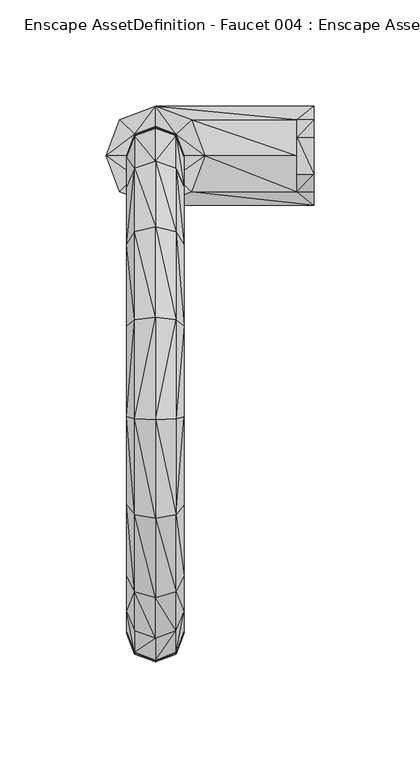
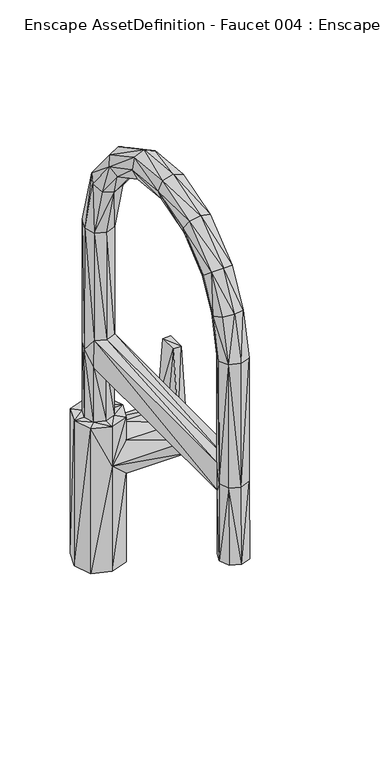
"""IFC4 building model written with IfcOpenShell, lengths in millimetres: geographic element geometry, Enscape AssetDefinition - Faucet 004 : Enscape AssetDefinition - Faucet 004."""

from ifc_helpers import new_model, si_unit, origin, place, context, project, spatial, faceted_brep, source, transform, mapped, element, save


def enscape_assetdefinition_faucet_004_enscape_assetdefinition_45639300(model_context):
    return source(origin(), model_context, "Body", "Brep", [
        faceted_brep([(0.0, -21.2619994, 147.0839977), (-16.9859994, -14.893, 147.0839977), (0.0, -21.2619994, 107.2349995), (-16.9859994, -14.893, 0.0), (-23.3549997, 2.0930001, 0.0), (-23.3549997, 2.0930001, 147.0839977), (-9.8759998, -7.5759999, 147.0839977), (0.0, -21.2619994, 0.0), (-16.9859994, 19.0789998, 0.0), (0.0, 25.4480001, 0.0), (23.3549997, 2.0930001, 0.0), (16.9859994, -14.893, 90.2500004), (16.9859994, -14.893, 0.0), (23.3549997, 2.0930001, 83.8799998), (16.9859994, 19.0789998, 0.0), (74.9029964, -14.893, 90.2500004), (74.9029964, 2.0930001, 83.8799998), (16.9859994, 19.0789998, 90.2500004), (74.9029964, 19.0789998, 90.2500004), (0.0, 25.4480001, 107.2349995), (74.9029964, 25.4480001, 107.2349995), (74.9029964, -14.893, 124.2209971), (74.9029964, 19.0789998, 124.2209971), (74.9029964, -21.2619994, 107.2349995), (74.9029964, -6.575, 194.0310001), (66.9059977, -14.893, 124.2209971), (74.9029964, 10.7610002, 194.0310001), (66.9059977, 10.7610002, 194.0310001), (66.9059977, 19.0789998, 124.2209971), (16.9859994, 19.0789998, 124.2209971), (66.9059977, 2.0930001, 130.5910051), (66.9059977, -6.575, 194.0310001), (23.3549997, 2.0930001, 130.5910051), (23.3549997, 2.0930001, 147.0839977), (16.9859994, 19.0789998, 147.0839977), (16.9859994, -14.893, 147.0839977), (16.9859994, -14.893, 124.2209971), (9.8759998, -7.5759999, 147.0839977), (0.0, -11.279, 147.0839977), (13.5789998, 2.3000001, 147.0839977), (9.8759998, -7.739, 202.3999989), (0.0, -11.4369998, 202.3999989), (-9.8759998, -7.739, 202.3999989), (-13.5789998, 2.1220001, 216.1999941), (-13.5789998, 2.3000001, 147.0839977), (0.0, -209.206, 202.3999989), (-9.8759998, -212.8980011, 202.3999989), (-9.8759998, -7.9020001, 230.0000042), (0.0, -209.5209956, 137.9999965), (9.8759998, -212.8980011, 202.3999989), (13.5789998, -222.7420062, 216.1999941), (9.8759998, -213.2239938, 137.9999965), (9.8759998, -212.7349973, 230.0000042), (13.5789998, -223.1000066, 137.9999965), (9.8759998, -232.9760045, 137.9999965), (0.0, -236.6790026, 137.9999965), (9.8759998, -232.3919982, 216.1999941), (13.5789998, -222.3850042, 340.6780064), (0.0, -236.2779975, 216.1999941), (9.8759998, -232.198, 341.6450024), (13.5789998, -213.0140066, 380.569011), (9.8759998, -212.5719935, 339.7119939), (9.8759998, -222.0949978, 384.0110004), (0.0, -235.8780056, 342.0070112), (-9.8759998, -232.198, 341.6450024), (-9.8759998, -232.3919982, 216.1999941), (0.0, -225.5000025, 385.3020072), (9.8759998, -203.6579996, 418.4289873), (0.0, -206.5020055, 420.7639992), (-9.8759998, -222.0949978, 384.0110004), (-9.8759998, -203.6579996, 418.4289873), (-9.8759998, -167.227, 448.2829869), (0.0, -168.9610034, 451.5280128), (13.5789998, -196.0719973, 412.2039974), (9.8759998, -167.227, 448.2829869), (-9.8759998, -122.1439987, 461.9219899), (0.0, -122.5040033, 465.5840099), (-13.5789998, -162.6009941, 439.628005), (-13.5789998, -121.1820021, 452.1569908), (0.0, -74.2050037, 460.7920051), (-9.8759998, -75.2729997, 457.2710097), (9.8759998, -75.2729997, 457.2710097), (9.8759998, -122.1439987, 461.9219899), (0.0, -31.4159989, 437.8820062), (-9.8759998, -33.7509997, 435.0380003), (-13.5789998, -39.9760008, 427.451998), (-13.5789998, -78.1219974, 447.8810132), (-9.8759998, -3.8970001, 398.6069858), (0.0, -0.652, 400.3410041), (9.8759998, -33.7509997, 435.0380003), (13.5789998, -78.1219974, 447.8810132), (13.5789998, -39.9760008, 427.451998), (9.8759998, -3.8970001, 398.6069858), (9.8759998, -46.2010019, 419.8670089), (9.8759998, -80.9699968, 438.4900033), (13.5789998, -121.1820021, 452.1569908), (9.8759998, -21.2050006, 389.3550038), (13.5789998, -12.5519997, 393.9810097), (9.8759998, 11.3979997, 341.6450024), (9.8759998, -8.2280003, 339.7119939), (13.5789998, 1.585, 340.6780064), (0.0, -24.4510006, 387.620002), (0.0, -48.5359989, 417.0219898), (0.0, -11.9080003, 339.3490016), (9.8759998, -7.9020001, 230.0000042), (13.5789998, 1.942, 216.1999941), (9.8759998, 11.7870001, 216.1999941), (9.8759998, 12.1759996, 147.0839977), (0.0, 15.8789996, 147.0839977), (0.0, 15.478, 216.1999941), (0.0, 25.4480001, 147.0839977), (-9.8759998, 12.1759996, 147.0839977), (-9.8759998, 11.7870001, 216.1999941), (0.0, 15.0779998, 342.0070112), (-9.8759998, 11.3979997, 341.6450024), (-13.5789998, 1.585, 340.6780064), (-9.8759998, -8.2280003, 339.7119939), (-13.5789998, -12.5519997, 393.9810097), (-9.8759998, -21.2050006, 389.3550038), (0.0, -11.5940003, 230.0000042), (-9.8759998, -212.7349973, 230.0000042), (0.0, -209.0499997, 230.0000042), (-13.5789998, -222.7420062, 216.1999941), (-9.8759998, -212.5719935, 339.7119939), (-9.8759998, -213.2239938, 137.9999965), (-13.5789998, -223.1000066, 137.9999965), (-9.8759998, -232.9760045, 137.9999965), (-13.5789998, -213.0140066, 380.569011), (-13.5789998, -222.3850042, 340.6780064), (-13.5789998, -196.0719973, 412.2039974), (-9.8759998, -157.9750031, 430.9749901), (-9.8759998, -188.4869933, 405.9790075), (-9.8759998, -120.2199981, 442.3910081), (0.0, -156.2400013, 427.7290106), (0.0, -119.8590025, 438.7289882), (-9.8759998, -80.9699968, 438.4900033), (0.0, -82.0389986, 434.9699914), (9.8759998, -120.2199981, 442.3910081), (9.8759998, -157.9750031, 430.9749901), (0.0, -185.642004, 403.6450088), (-9.8759998, -46.2010019, 419.8670089), (13.5789998, -162.6009941, 439.628005), (9.8759998, -188.4869933, 405.9790075), (9.8759998, -203.9330006, 377.1269917), (0.0, -200.5269974, 375.8369982), (0.0, -208.8920027, 339.3490016), (-9.8759998, -203.9330006, 377.1269917), (-16.9859994, 19.0789998, 147.0839977)], [[[0, 1, 2]], [[1, 3, 2]], [[1, 4, 3]], [[5, 4, 1]], [[1, 0, 6]], [[6, 5, 1]], [[2, 3, 7]], [[4, 7, 3]], [[4, 5, 8]], [[8, 9, 4]], [[9, 7, 4]], [[9, 10, 7]], [[11, 7, 12]], [[2, 7, 11]], [[10, 12, 7]], [[10, 11, 12]], [[13, 11, 10]], [[14, 13, 10]], [[10, 9, 14]], [[15, 2, 11]], [[16, 11, 13]], [[15, 11, 16]], [[17, 13, 14]], [[18, 13, 17]], [[16, 13, 18]], [[9, 17, 14]], [[19, 17, 9]], [[20, 17, 19]], [[18, 17, 20]], [[18, 21, 16]], [[22, 21, 18]], [[20, 22, 18]], [[16, 21, 15]], [[21, 23, 15]], [[23, 2, 15]], [[24, 25, 21]], [[21, 25, 23]], [[26, 21, 22]], [[24, 21, 26]], [[27, 22, 28]], [[26, 22, 27]], [[22, 20, 28]], [[20, 19, 28]], [[28, 19, 29]], [[28, 29, 30]], [[31, 28, 30]], [[27, 28, 31]], [[24, 27, 31]], [[26, 27, 24]], [[31, 25, 24]], [[31, 30, 25]], [[30, 32, 25]], [[30, 29, 32]], [[29, 33, 32]], [[34, 33, 29]], [[19, 34, 29]], [[32, 35, 36]], [[33, 35, 32]], [[25, 32, 36]], [[35, 2, 36]], [[0, 2, 35]], [[35, 33, 37]], [[35, 37, 0]], [[23, 36, 2]], [[25, 36, 23]], [[0, 37, 38]], [[6, 0, 38]], [[39, 40, 37]], [[37, 41, 38]], [[40, 41, 37]], [[37, 33, 39]], [[38, 42, 6]], [[41, 42, 38]], [[43, 6, 42]], [[44, 6, 43]], [[44, 5, 6]], [[45, 42, 41]], [[46, 42, 45]], [[46, 47, 42]], [[43, 42, 47]], [[48, 46, 45]], [[49, 48, 45]], [[45, 41, 49]], [[50, 51, 49]], [[51, 48, 49]], [[50, 49, 52]], [[49, 41, 40]], [[49, 40, 52]], [[53, 48, 51]], [[53, 51, 50]], [[53, 50, 54]], [[53, 54, 55]], [[53, 55, 48]], [[54, 56, 55]], [[54, 50, 56]], [[50, 52, 57]], [[50, 57, 56]], [[55, 56, 58]], [[56, 59, 58]], [[56, 57, 59]], [[57, 60, 59]], [[57, 61, 60]], [[57, 52, 61]], [[59, 60, 62]], [[62, 63, 59]], [[58, 59, 63]], [[64, 58, 63]], [[65, 58, 64]], [[65, 55, 58]], [[66, 64, 63]], [[66, 63, 62]], [[62, 60, 67]], [[68, 62, 67]], [[66, 62, 68]], [[69, 64, 66]], [[70, 66, 68]], [[69, 66, 70]], [[71, 68, 72]], [[70, 68, 71]], [[68, 67, 72]], [[67, 73, 74]], [[67, 60, 73]], [[72, 67, 74]], [[75, 72, 76]], [[71, 72, 75]], [[72, 74, 76]], [[77, 70, 71]], [[78, 71, 75]], [[77, 71, 78]], [[79, 75, 76]], [[80, 75, 79]], [[80, 78, 75]], [[81, 76, 82]], [[79, 76, 81]], [[76, 74, 82]], [[79, 81, 83]], [[84, 79, 83]], [[80, 79, 84]], [[85, 80, 84]], [[86, 80, 85]], [[86, 78, 80]], [[84, 83, 87]], [[87, 85, 84]], [[87, 83, 88]], [[83, 89, 88]], [[83, 81, 89]], [[81, 90, 89]], [[81, 82, 90]], [[89, 90, 91]], [[88, 89, 92]], [[89, 91, 92]], [[93, 90, 94]], [[91, 90, 93]], [[90, 95, 94]], [[90, 82, 95]], [[96, 91, 93]], [[97, 91, 96]], [[92, 91, 97]], [[92, 97, 98]], [[92, 98, 88]], [[99, 97, 96]], [[100, 97, 99]], [[98, 97, 100]], [[96, 101, 99]], [[102, 96, 93]], [[101, 96, 102]], [[99, 101, 103]], [[99, 103, 104]], [[105, 99, 104]], [[100, 99, 105]], [[106, 100, 105]], [[98, 100, 106]], [[105, 40, 39]], [[107, 105, 39]], [[106, 105, 107]], [[105, 104, 40]], [[108, 106, 107]], [[109, 106, 108]], [[109, 98, 106]], [[34, 110, 107]], [[34, 107, 33]], [[107, 110, 108]], [[33, 107, 39]], [[111, 109, 108]], [[108, 110, 111]], [[112, 109, 111]], [[112, 113, 109]], [[113, 98, 109]], [[88, 98, 113]], [[114, 88, 113]], [[114, 113, 112]], [[44, 112, 111]], [[43, 112, 44]], [[43, 114, 112]], [[115, 87, 114]], [[87, 88, 114]], [[115, 114, 43]], [[43, 47, 115]], [[116, 117, 115]], [[117, 87, 115]], [[115, 47, 116]], [[117, 85, 87]], [[118, 85, 117]], [[118, 117, 116]], [[101, 116, 103]], [[118, 116, 101]], [[119, 116, 47]], [[103, 116, 119]], [[120, 47, 46]], [[120, 119, 47]], [[104, 103, 119]], [[121, 119, 120]], [[121, 104, 119]], [[120, 122, 123]], [[120, 123, 121]], [[46, 122, 120]], [[124, 46, 48]], [[46, 125, 122]], [[124, 125, 46]], [[48, 55, 125]], [[48, 125, 124]], [[125, 65, 122]], [[126, 65, 125]], [[125, 55, 126]], [[126, 55, 65]], [[65, 64, 122]], [[127, 64, 69]], [[128, 64, 127]], [[122, 64, 128]], [[70, 127, 69]], [[129, 70, 77]], [[129, 127, 70]], [[130, 129, 77]], [[78, 130, 77]], [[131, 129, 130]], [[131, 127, 129]], [[132, 130, 78]], [[133, 131, 130]], [[134, 130, 132]], [[133, 130, 134]], [[86, 132, 78]], [[135, 132, 86]], [[135, 134, 132]], [[136, 137, 134]], [[137, 133, 134]], [[136, 134, 135]], [[138, 139, 133]], [[139, 131, 133]], [[138, 133, 137]], [[137, 95, 138]], [[94, 137, 136]], [[94, 95, 137]], [[93, 136, 102]], [[94, 136, 93]], [[136, 135, 102]], [[102, 135, 140]], [[102, 140, 101]], [[140, 85, 118]], [[140, 86, 85]], [[135, 86, 140]], [[101, 140, 118]], [[95, 74, 141]], [[82, 74, 95]], [[138, 95, 141]], [[74, 73, 141]], [[141, 142, 138]], [[73, 142, 141]], [[142, 139, 138]], [[73, 143, 142]], [[142, 144, 139]], [[143, 144, 142]], [[60, 143, 73]], [[60, 61, 143]], [[143, 145, 144]], [[61, 145, 143]], [[144, 146, 139]], [[144, 123, 146]], [[145, 123, 144]], [[139, 146, 131]], [[123, 127, 146]], [[146, 127, 131]], [[128, 127, 123]], [[123, 122, 128]], [[121, 123, 145]], [[61, 121, 145]], [[52, 121, 61]], [[52, 104, 121]], [[52, 40, 104]], [[111, 5, 44]], [[8, 5, 147]], [[147, 5, 111]], [[111, 110, 147]], [[9, 147, 19]], [[8, 147, 9]], [[19, 147, 110]], [[110, 34, 19]]]),
    ])


if __name__ == "__main__":
    model = new_model("IFC4")
    model_context = context("Model", 3, world=origin())
    ifc_project = project(units=[si_unit("LENGTHUNIT", "METRE", prefix="MILLI")], contexts=[model_context])
    site = spatial("IfcSite", under=ifc_project)
    building = spatial("IfcBuilding", under=site)
    placement = place(None, origin())
    enscape_assetdefinition_faucet_004_enscape_assetdefinition_shape = enscape_assetdefinition_faucet_004_enscape_assetdefinition_45639300(model_context)
    element("IfcGeographicElement", 1, ObjectType="Enscape AssetDefinition - Faucet 004 : Enscape AssetDefinition - Faucet 004", at=placement, inside=building, context=model_context, shape_type="MappedRepresentation", body=[
        mapped(enscape_assetdefinition_faucet_004_enscape_assetdefinition_shape, transform((0.0, 0.0, 0.0), x_axis=(1.0, 0.0, 0.0), y_axis=(0.0, 1.0, 0.0), z_axis=(0.0, 0.0, 1.0))),
    ])
    save(model, "model.ifc")
